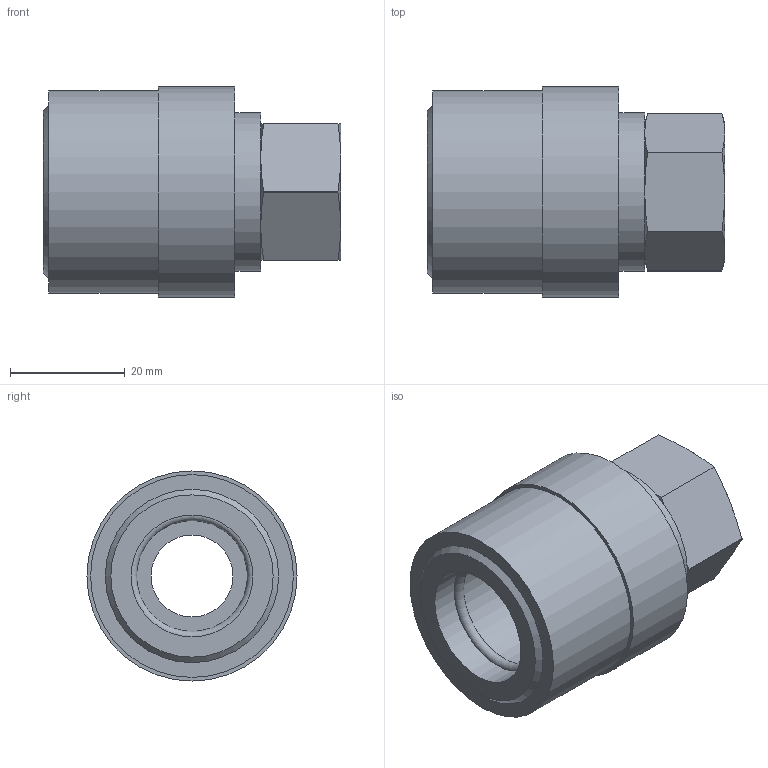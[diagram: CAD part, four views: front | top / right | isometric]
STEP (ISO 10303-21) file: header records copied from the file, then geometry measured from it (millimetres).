
FILE_DESCRIPTION(/* description */ ('STEP AP214'),/* implementation_level */ '2;1');
FILE_NAME(/* name */ 'JS-500-V',/* time_stamp */ '2024-12-19T08:59:35+01:00',/* author */ ('License CC BY-ND 4.0'),/* organization */ ('CADENAS'),/* preprocessor_version */ 'ST-DEVELOPER v19.3',/* originating_system */ 'PARTsolutions',/* authorisation */ ' ');
FILE_SCHEMA (('AUTOMOTIVE_DESIGN {1 0 10303 214 3 1 1}'));
Length unit declared in the file: inch
Products named in the file (1): JS-500-V
Bounding box: 51.75 x 36.58 x 36.58 mm (x, y, z)
Volume: 29359.1 mm3; surface area: 9923.2 mm2
Topology: 1 solids, 1 shells, 48 faces, 120 edges, 78 vertices
Faces by surface type: plane 23, cone 16, cylinder 8, torus 1
Full cylindrical faces by diameter (mm): 14.25 x1, 17.647 x1, 21.184 x2, 27.503 x1, 35.306 x1, 36.576 x1
Entity records: 1424 total; most frequent: CARTESIAN_POINT 317, ORIENTED_EDGE 214, DIRECTION 210, EDGE_CURVE 107, AXIS2_PLACEMENT_3D 82, VERTEX_POINT 77, EDGE_LOOP 66, FACE_BOUND 66
